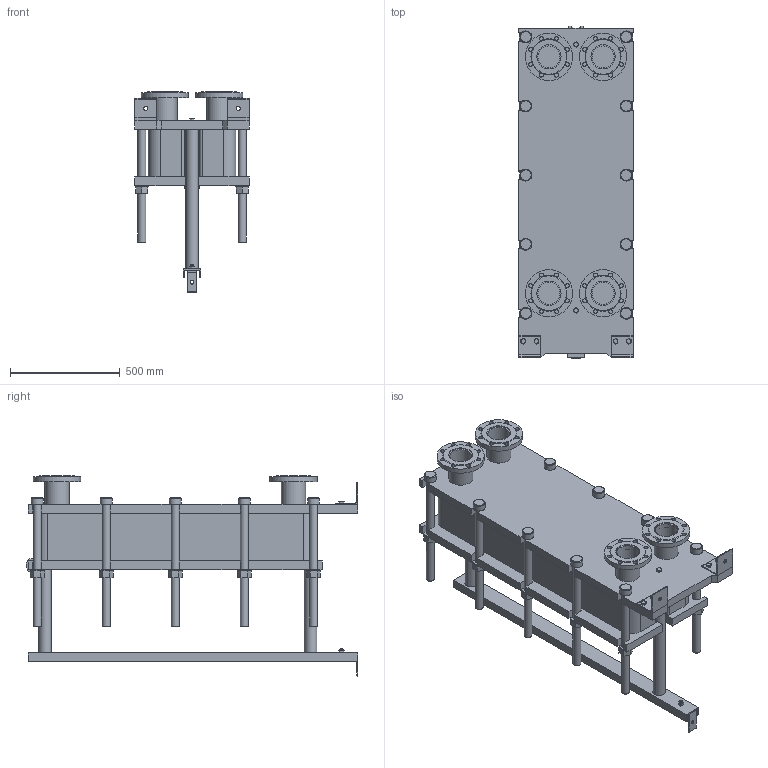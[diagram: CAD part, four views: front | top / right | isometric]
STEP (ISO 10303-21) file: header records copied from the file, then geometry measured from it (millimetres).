
FILE_DESCRIPTION(/* description */ (''),/* implementation_level */ '2;1');
FILE_NAME(/* name */ 'C:\Users\zhuro\Desktop\ENCO\TO\ЭН-04\ЭН-0,5-04-63-1.stp',/* time_stamp */ '2022-06-06T10:49:53+03:00',/* author */ ('zhuro'),/* organization */ (''),/* preprocessor_version */ 'ST-DEVELOPER v18.1',/* originating_system */ 'Autodesk Inventor 2022',/* authorisation */ '');
FILE_SCHEMA (('AUTOMOTIVE_DESIGN { 1 0 10303 214 3 1 1 }'));
Length unit declared in the file: millimetre
Products named in the file (1): ЭН-0,5-04-63-1
Bounding box: 520 x 1510 x 911.5 mm (x, y, z)
Volume: 177836061.3 mm3; surface area: 7541628.4 mm2
Topology: 45 solids, 45 shells, 668 faces, 1611 edges, 1048 vertices
Faces by surface type: plane 457, cylinder 166, cone 39, torus 6
Full cylindrical faces by diameter (mm): 8 x4, 10 x2, 16 x8, 18 x35, 36 x25, 40 x2, 42 x1, 45 x4, 54 x10, 57 x2, 60 x10, 68 x2, 100 x4, 110 x8, 215 x4
Entity records: 23607 total; most frequent: CARTESIAN_POINT 7348, DIRECTION 3371, ORIENTED_EDGE 3142, EDGE_CURVE 1571, AXIS2_PLACEMENT_3D 1199, VERTEX_POINT 1044, LINE 973, VECTOR 973
